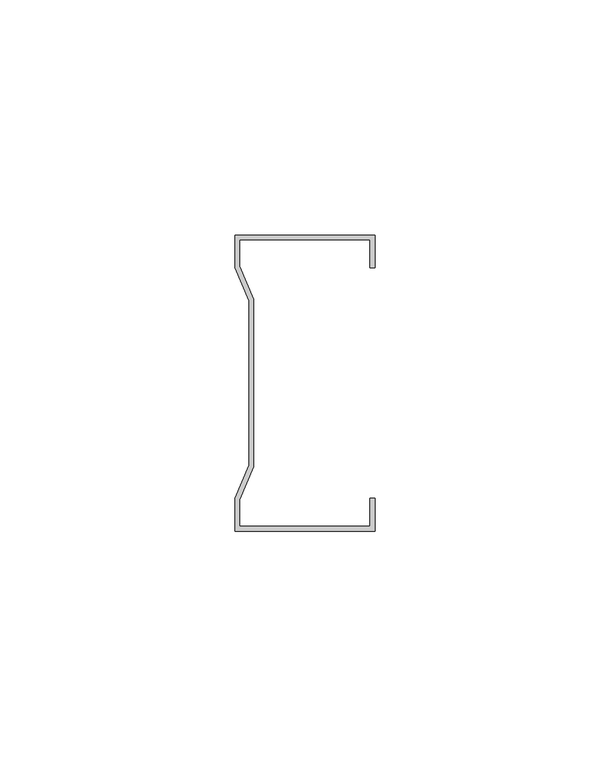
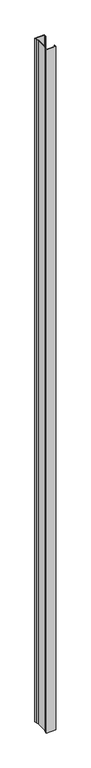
"""IFC4 building model written with IfcOpenShell, lengths in millimetres: proxy geometry, SICON Stud 2 1-2 : SICON Stud 2 1/2."""

import ifcopenshell
import ifcopenshell.guid

model = None  # the IFC model being written
_history = None  # IfcOwnerHistory: only IFC2X3 demands one
_inside = {}  # id of a spatial element -> (the spatial element, [elements in it])
_under = {}  # id of a project, library or spatial element -> (it, [spatial elements below it])
_declared = {}  # id of a project -> (the project, [libraries it declares])
_typed = {}  # id of a type object -> (the type object, [elements of that type])
_made_of = {}  # id of a material, layer set ... -> (it, [elements and type objects made of it])


def new_model(schema):
    """Start an empty IFC model of exactly this schema.

    Asked for "IFC4X3", IfcOpenShell would pick the latest addendum, in which some entities
    have other attributes; the version numbers below select the first issue.
    IFC2X3 requires an IfcOwnerHistory on every rooted entity: one is made here for all.
    """
    global model, _history
    if schema == "IFC4X3":
        model = ifcopenshell.file(schema_version=(4, 3, 0, 0))
    else:
        model = ifcopenshell.file(schema=schema)
    _inside.clear()
    _under.clear()
    _declared.clear()
    _typed.clear()
    _made_of.clear()
    _history = None
    if model.schema == "IFC2X3":
        org = make("IfcOrganization", Name="unknown")
        user = make(
            "IfcPersonAndOrganization",
            ThePerson=make("IfcPerson", FamilyName="unknown"),
            TheOrganization=org,
        )
        app = make(
            "IfcApplication",
            ApplicationDeveloper=org,
            Version="unknown",
            ApplicationFullName="unknown",
            ApplicationIdentifier="unknown",
        )
        _history = make(
            "IfcOwnerHistory",
            OwningUser=user,
            OwningApplication=app,
            ChangeAction="ADDED",
            CreationDate=0,
        )
    return model


def make(cls, **values):
    """One entity of the class cls with the attributes given. An attribute that is None is left unset."""
    return model.create_entity(
        cls, **{name: value for name, value in values.items() if value is not None}
    )


def rooted(cls, **values):
    """An entity with a GlobalId (a new one), such as an element, a storey or a relation."""
    return make(cls, GlobalId=ifcopenshell.guid.new(), OwnerHistory=_history, **values)


def si_unit(unit_type, name, prefix=None):
    """IfcSIUnit, for example si_unit("LENGTHUNIT", "METRE", prefix="MILLI")."""
    return make("IfcSIUnit", UnitType=unit_type, Prefix=prefix, Name=name)


def assignment(units):
    """IfcUnitAssignment: the units of a project."""
    return None if units is None else make("IfcUnitAssignment", Units=units)


def point(xyz):
    """IfcCartesianPoint."""
    return None if xyz is None else make("IfcCartesianPoint", Coordinates=xyz)


def direction(xyz):
    """IfcDirection."""
    return None if xyz is None else make("IfcDirection", DirectionRatios=xyz)


def frame(location, z_axis=None, x_axis=None):
    """IfcAxis2Placement3D, a coordinate frame: its origin and axes. An axis left out is left unset."""
    return make(
        "IfcAxis2Placement3D",
        Location=point(location),
        Axis=direction(z_axis),
        RefDirection=direction(x_axis),
    )


def origin():
    """The frame at (0, 0, 0) with its axes left unset."""
    return frame((0.0, 0.0, 0.0))


def place(relative_to, where):
    """IfcLocalPlacement: puts the frame where relative to a parent placement (None: the world)."""
    return make(
        "IfcLocalPlacement", PlacementRelTo=relative_to, RelativePlacement=where
    )


def context(
    kind, dimensions, precision=None, world=None, true_north=None, identifier=None
):
    """IfcGeometricRepresentationContext, for example the 3D "Model" context."""
    return make(
        "IfcGeometricRepresentationContext",
        ContextIdentifier=identifier,
        ContextType=kind,
        CoordinateSpaceDimension=dimensions,
        Precision=precision,
        WorldCoordinateSystem=world,
        TrueNorth=true_north,
    )


def project(units=None, contexts=None):
    """IfcProject with its units and contexts."""
    return rooted(
        "IfcProject",
        Name="project",
        RepresentationContexts=contexts,
        UnitsInContext=assignment(units),
    )


def spatial(cls, under=None, at=None, **own):
    """A site, building, storey or space (cls), placed at a placement, below another one or the project."""
    s = rooted(cls, ObjectPlacement=at, **own)
    if under is not None:
        _under.setdefault(under.id(), (under, []))[1].append(s)
    return s


def polyline(points):
    """IfcPolyline through the points."""
    return make("IfcPolyline", Points=[point(p) for p in points])


def outline(outer, holes=None, kind="AREA"):
    """IfcArbitraryClosedProfileDef: a profile drawn as a closed curve; with holes, ...WithVoids."""
    if holes is None:
        return make("IfcArbitraryClosedProfileDef", ProfileType=kind, OuterCurve=outer)
    return make(
        "IfcArbitraryProfileDefWithVoids",
        ProfileType=kind,
        OuterCurve=outer,
        InnerCurves=holes,
    )


def extrude(swept, where, along, depth):
    """IfcExtrudedAreaSolid: the profile swept, set in the frame where, extruded along a direction by depth."""
    return make(
        "IfcExtrudedAreaSolid",
        SweptArea=swept,
        Position=where,
        ExtrudedDirection=direction(along),
        Depth=depth,
    )


def shape(context_of_items, identifier, shape_type, items):
    """IfcShapeRepresentation: the items that make up one representation, for example the "Body"."""
    return make(
        "IfcShapeRepresentation",
        ContextOfItems=context_of_items,
        RepresentationIdentifier=identifier,
        RepresentationType=shape_type,
        Items=items,
    )


def source(mapping_origin, context_of_items, identifier, shape_type, items):
    """IfcRepresentationMap: a shape defined once, which mapped items show again and again."""
    return make(
        "IfcRepresentationMap",
        MappingOrigin=mapping_origin,
        MappedRepresentation=shape(context_of_items, identifier, shape_type, items),
    )


def transform(
    local_origin,
    x_axis=None,
    y_axis=None,
    z_axis=None,
    scale=None,
    scale2=None,
    scale3=None,
    uniform=True,
):
    """IfcCartesianTransformationOperator3D, or its non-uniform kind. x_axis, y_axis, z_axis: its Axis1, 2, 3."""
    if uniform:
        return make(
            "IfcCartesianTransformationOperator3D",
            Axis1=direction(x_axis),
            Axis2=direction(y_axis),
            LocalOrigin=point(local_origin),
            Scale=scale,
            Axis3=direction(z_axis),
        )
    return make(
        "IfcCartesianTransformationOperator3DnonUniform",
        Axis1=direction(x_axis),
        Axis2=direction(y_axis),
        LocalOrigin=point(local_origin),
        Scale=scale,
        Axis3=direction(z_axis),
        Scale2=scale2,
        Scale3=scale3,
    )


def mapped(mapping_source, mapping_target):
    """IfcMappedItem: shows the shape of a source again, moved by a transform."""
    return make(
        "IfcMappedItem", MappingSource=mapping_source, MappingTarget=mapping_target
    )


def made_of(thing, what):
    """Note that an element or type object is made of a material, layer set ...; save() writes the relation."""
    if what is not None:
        _made_of.setdefault(what.id(), (what, []))[1].append(thing)
    return thing


def element(
    cls,
    number,
    at=None,
    inside=None,
    cuts=None,
    type_object=None,
    material=None,
    context=None,
    identifier="Body",
    shape_type=None,
    held_by="IfcProductDefinitionShape",
    body=None,
    shapes=None,
    **own,
):
    """One element of the class cls, such as IfcWall. Its Tag is "e" and its number.

    at: its placement. inside: the storey or other place that contains it. cuts: it is an
    opening in that element (IfcRelVoidsElement). A single representation is given by context,
    identifier, shape_type and body (its items); several are given by shapes. held_by: the class
    of the entity that holds the representations. save() writes the other relations.
    """
    e = rooted(cls, Tag="e%d" % number, ObjectPlacement=at, **own)
    if body is not None:
        shapes = [shape(context, identifier, shape_type, body)]
    if shapes is not None:
        e.Representation = make(held_by, Representations=shapes)
    if inside is not None:
        _inside.setdefault(inside.id(), (inside, []))[1].append(e)
    if cuts is not None:
        rooted(
            "IfcRelVoidsElement", RelatingBuildingElement=cuts, RelatedOpeningElement=e
        )
    if type_object is not None:
        _typed.setdefault(type_object.id(), (type_object, []))[1].append(e)
    return made_of(e, material)


def aggregate(whole, parts):
    """IfcRelAggregates: a whole, such as a stair, and the parts it consists of."""
    return rooted("IfcRelAggregates", RelatingObject=whole, RelatedObjects=parts)


def save(model, path):
    """Write the relations noted so far, then the file.

    IfcRelAggregates (storeys below a building ...), IfcRelContainedInSpatialStructure (elements
    in a storey), IfcRelDefinesByType, IfcRelAssociatesMaterial and IfcRelDeclares: one each for
    every whole, place, type object, material and project.
    """
    for whole, parts in _under.values():
        aggregate(whole, parts)
    for where, things in _inside.values():
        rooted(
            "IfcRelContainedInSpatialStructure",
            RelatedElements=things,
            RelatingStructure=where,
        )
    for kind, things in _typed.values():
        rooted("IfcRelDefinesByType", RelatedObjects=things, RelatingType=kind)
    for what, things in _made_of.values():
        rooted("IfcRelAssociatesMaterial", RelatedObjects=things, RelatingMaterial=what)
    for by, libraries in _declared.values():
        rooted("IfcRelDeclares", RelatingContext=by, RelatedDefinitions=libraries)
    model.write(path)


def generic_models_efc4bd1f(model_context):
    return source(origin(), model_context, "Body", "SweptSolid", [
        extrude(outline(polyline([(17.8255771, 31.5), (17.8255771, 24.5), (16.8255771, 24.5), (16.8255771, 30.5), (-10.984671, 30.5), (-10.984671, 24.8333333), (-7.984671, 17.8333333), (-7.984671, -17.8333333), (-10.984671, -24.8333333), (-10.984671, -30.5), (16.8255771, -30.5), (16.8255771, -24.5), (17.8255771, -24.5), (17.8255771, -31.5), (-11.984671, -31.5), (-11.984671, -24.5), (-8.984671, -17.5), (-8.984671, 17.5), (-11.984671, 24.5), (-11.984671, 31.5), (17.8255771, 31.5)])), frame((0.0, 0.0, 3.0), z_axis=(0.0, 0.0, 1.0), x_axis=(1.0, 0.0, 0.0)), (0.0, 0.0, 1.0), 2278.2693648),
    ])


if __name__ == "__main__":
    model = new_model("IFC4")
    model_context = context("Model", 3, world=origin())
    ifc_project = project(units=[si_unit("LENGTHUNIT", "METRE", prefix="MILLI")], contexts=[model_context])
    site = spatial("IfcSite", under=ifc_project)
    building = spatial("IfcBuilding", under=site)
    placement = place(None, origin())
    generic_models_shape = generic_models_efc4bd1f(model_context)
    element("IfcBuildingElementProxy", 1, Name="SICON Stud 2 1-2 : SICON Stud 2 1/2", ObjectType="SICON Stud 2 1-2 : SICON Stud 2 1/2", at=placement, inside=building, context=model_context, shape_type="MappedRepresentation", body=[
        mapped(generic_models_shape, transform((0.0, 0.0, 0.0), x_axis=(1.0, 0.0, 0.0), y_axis=(0.0, 1.0, 0.0), z_axis=(0.0, 0.0, 1.0))),
    ])
    save(model, "model.ifc")
